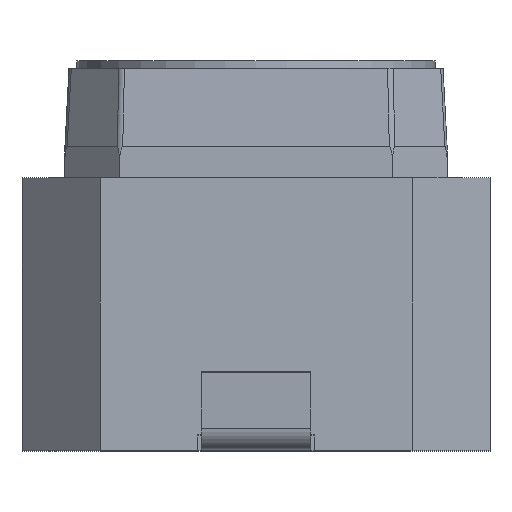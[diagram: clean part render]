
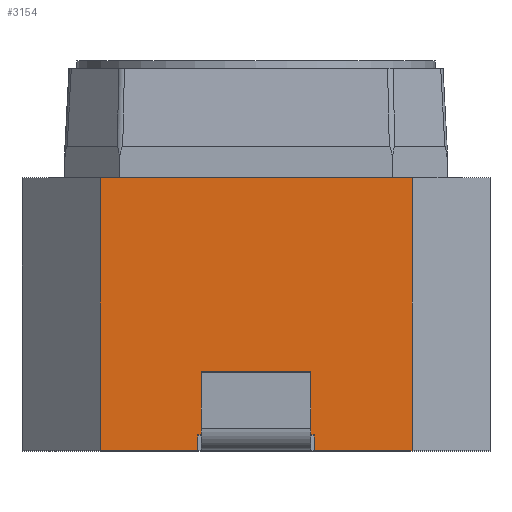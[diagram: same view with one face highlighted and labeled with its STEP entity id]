
A CAD part, top view. The second image highlights one B-rep face of the part: STEP entity #3154.
In plain terms, the highlighted planar face has unit normal (0, 0, 1).
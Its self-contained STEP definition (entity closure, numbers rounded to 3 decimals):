
#1375=DIRECTION('',(1.,0.,0.));
#1376=VECTOR('',#1375,4.);
#1377=CARTESIAN_POINT('',(-2.,0.,3.));
#1378=LINE('',#1377,#1376);
#1599=DIRECTION('',(1.,0.,0.));
#1600=VECTOR('',#1599,1.25);
#1601=CARTESIAN_POINT('',(-2.,-3.5,3.));
#1602=LINE('',#1601,#1600);
#1641=DIRECTION('',(1.,0.,0.));
#1642=VECTOR('',#1641,1.25);
#1643=CARTESIAN_POINT('',(0.75,-3.5,3.));
#1644=LINE('',#1643,#1642);
#1892=DIRECTION('',(1.,0.,0.));
#1893=VECTOR('',#1892,1.4);
#1894=CARTESIAN_POINT('',(-0.7,-3.3,3.));
#1895=LINE('',#1894,#1893);
#1899=DIRECTION('',(1.,0.,0.));
#1900=VECTOR('',#1899,0.05);
#1901=CARTESIAN_POINT('',(-0.75,-3.3,3.));
#1902=LINE('',#1901,#1900);
#1906=DIRECTION('',(0.,1.,0.));
#1907=VECTOR('',#1906,0.2);
#1908=CARTESIAN_POINT('',(-0.75,-3.5,3.));
#1909=LINE('',#1908,#1907);
#1913=DIRECTION('',(0.,-1.,0.));
#1914=VECTOR('',#1913,3.5);
#1915=CARTESIAN_POINT('',(-2.,0.,3.));
#1916=LINE('',#1915,#1914);
#1920=DIRECTION('',(0.,-1.,0.));
#1921=VECTOR('',#1920,3.5);
#1922=CARTESIAN_POINT('',(2.,0.,3.));
#1923=LINE('',#1922,#1921);
#1927=DIRECTION('',(0.,1.,0.));
#1928=VECTOR('',#1927,0.2);
#1929=CARTESIAN_POINT('',(0.75,-3.5,3.));
#1930=LINE('',#1929,#1928);
#1934=DIRECTION('',(1.,0.,0.));
#1935=VECTOR('',#1934,0.05);
#1936=CARTESIAN_POINT('',(0.7,-3.3,3.));
#1937=LINE('',#1936,#1935);
#2468=CARTESIAN_POINT('',(0.75,-3.3,3.));
#2470=VERTEX_POINT('',#2468);
#2473=CARTESIAN_POINT('',(-0.75,-3.3,3.));
#2475=VERTEX_POINT('',#2473);
#2556=CARTESIAN_POINT('',(-2.,-3.5,3.));
#2558=VERTEX_POINT('',#2556);
#2562=CARTESIAN_POINT('',(-2.,0.,3.));
#2563=VERTEX_POINT('',#2562);
#2565=CARTESIAN_POINT('',(2.,-3.5,3.));
#2567=VERTEX_POINT('',#2565);
#2568=CARTESIAN_POINT('',(2.,0.,3.));
#2569=VERTEX_POINT('',#2568);
#2572=CARTESIAN_POINT('',(0.75,-3.5,3.));
#2573=VERTEX_POINT('',#2572);
#2574=CARTESIAN_POINT('',(-0.75,-3.5,3.));
#2575=VERTEX_POINT('',#2574);
#2600=CARTESIAN_POINT('',(-0.7,-3.3,3.));
#2601=CARTESIAN_POINT('',(0.7,-3.3,3.));
#2602=VERTEX_POINT('',#2600);
#2603=VERTEX_POINT('',#2601);
#3131=CARTESIAN_POINT('',(-3.,0.,3.));
#3132=DIRECTION('',(0.,0.,1.));
#3133=DIRECTION('',(1.,0.,0.));
#3134=AXIS2_PLACEMENT_3D('',#3131,#3132,#3133);
#3135=PLANE('',#3134);
#3136=ORIENTED_EDGE('',*,*,#3112,.F.);
#3138=ORIENTED_EDGE('',*,*,#3137,.F.);
#3140=ORIENTED_EDGE('',*,*,#3139,.F.);
#3141=ORIENTED_EDGE('',*,*,#2795,.F.);
#3143=ORIENTED_EDGE('',*,*,#3142,.F.);
#3144=ORIENTED_EDGE('',*,*,#2687,.T.);
#3146=ORIENTED_EDGE('',*,*,#3145,.T.);
#3147=ORIENTED_EDGE('',*,*,#2811,.F.);
#3149=ORIENTED_EDGE('',*,*,#3148,.T.);
#3151=ORIENTED_EDGE('',*,*,#3150,.F.);
#3152=EDGE_LOOP('',(#3136,#3138,#3140,#3141,#3143,#3144,#3146,#3147,#3149,
#3151));
#3153=FACE_OUTER_BOUND('',#3152,.F.);
#2687=EDGE_CURVE('',#2563,#2569,#1378,.T.);
#2795=EDGE_CURVE('',#2558,#2575,#1602,.T.);
#2811=EDGE_CURVE('',#2573,#2567,#1644,.T.);
#3112=EDGE_CURVE('',#2602,#2603,#1895,.T.);
#3137=EDGE_CURVE('',#2475,#2602,#1902,.T.);
#3139=EDGE_CURVE('',#2575,#2475,#1909,.T.);
#3142=EDGE_CURVE('',#2563,#2558,#1916,.T.);
#3145=EDGE_CURVE('',#2569,#2567,#1923,.T.);
#3148=EDGE_CURVE('',#2573,#2470,#1930,.T.);
#3150=EDGE_CURVE('',#2603,#2470,#1937,.T.);
#3154=ADVANCED_FACE('',(#3153),#3135,.T.);
